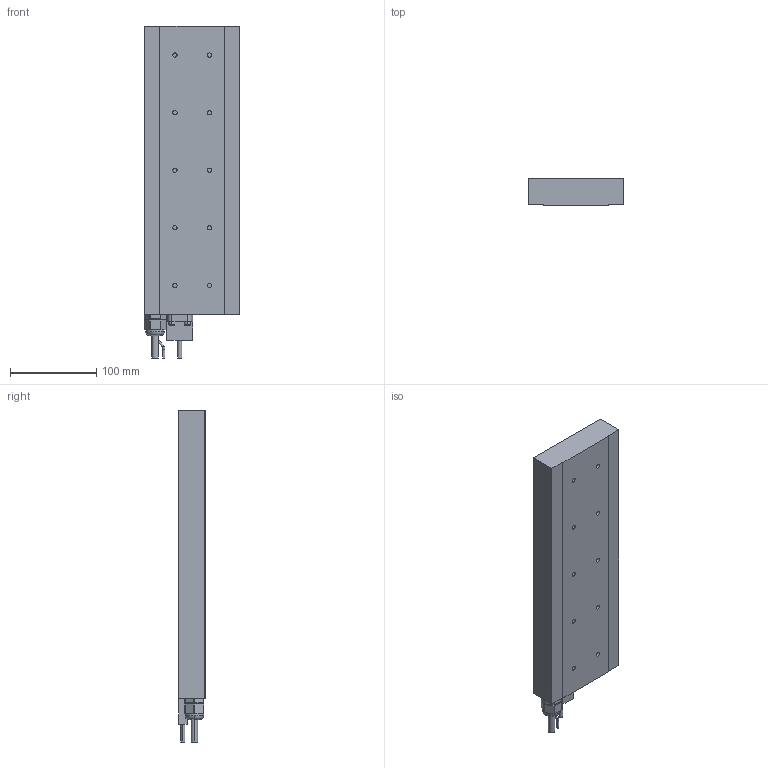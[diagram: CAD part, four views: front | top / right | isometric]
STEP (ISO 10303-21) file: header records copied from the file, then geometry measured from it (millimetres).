
FILE_DESCRIPTION((''),'2;1');
FILE_NAME('LDC-C075300_ASM','2009-04-15T',('Freds'),('Rockwell Automation'),'PRO/ENGINEER BY PARAMETRIC TECHNOLOGY CORPORATION, 2004490','PRO/ENGINEER BY PARAMETRIC TECHNOLOGY CORPORATION, 2004490','');
FILE_SCHEMA(('CONFIG_CONTROL_DESIGN'));
Products named in the file (8): LDC-C075300; 91787; LCHALL; HALLMODCAB; LCHALLMODULE_ASM; LCPOWWERCABLE; MSCS0503_SS; LDC-C075300_ASM
Assembly tree (8 placements, depth 3):
  LDC-C075300_ASM
    LDC-C075300
    91787
    LCHALLMODULE_ASM
      LCHALL
      HALLMODCAB
    LCPOWWERCABLE
    MSCS0503_SS  x2
Bounding box: 110.45 x 31.24 x 384.39 mm (x, y, z)
Volume: 1158412.9 mm3; surface area: 114630.6 mm2
Topology: 7 solids, 7 shells, 191 faces, 415 edges, 260 vertices
Faces by surface type: plane 89, cylinder 82, torus 12, cone 8
Entity records: 4654 total; most frequent: CARTESIAN_POINT 837, DIRECTION 835, ORIENTED_EDGE 690, EDGE_CURVE 345, AXIS2_PLACEMENT_3D 323, VERTEX_POINT 220, VECTOR 189, LINE 189
